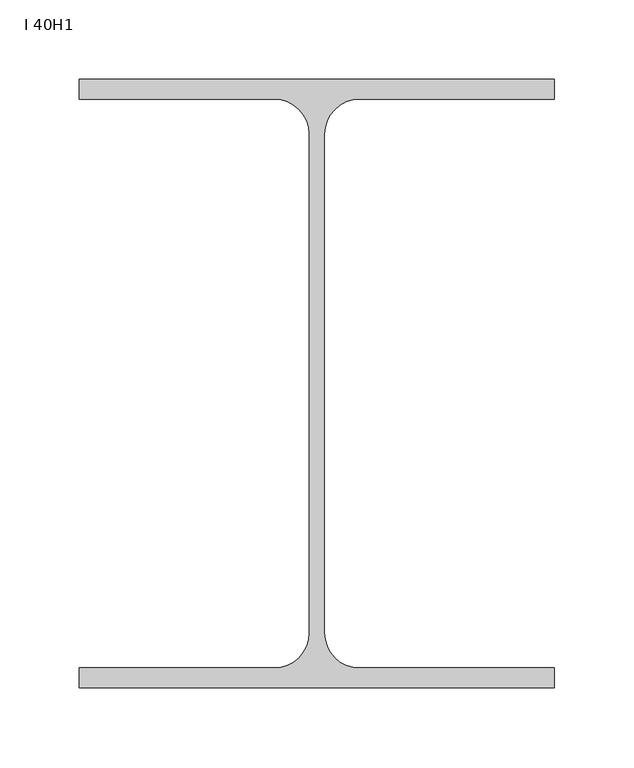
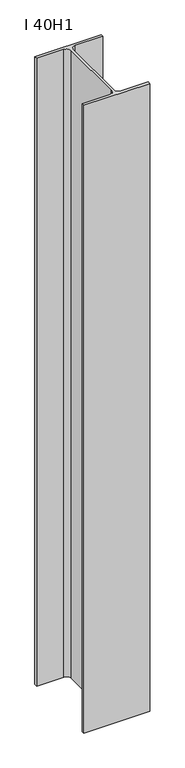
"""IFC4 building model written with IfcOpenShell, lengths in millimetres: column geometry, Двутавровая балка с широкими полками (ASTO20-93)-Колонна : I 40H1."""

from ifc_helpers import new_model, si_unit, point, frame_2d, origin, origin_with_axes, place, context, project, spatial, polyline, circle_curve, trimmed, segment, composite_curve, outline, extrude, source, transform, mapped, element, save


def i_40h1_c1fda57e(model_context):
    return source(origin(), model_context, "Body", "SweptSolid", [
        extrude(outline(composite_curve([segment(polyline([(-149.5, 178.5), (-149.5, 191.0), (149.5, 191.0), (149.5, 178.5), (26.75, 178.5)]), True, "CONTINUOUS"), segment(trimmed(circle_curve(frame_2d((26.75, 156.5)), 22.0), [point((26.75, 178.5))], [point((4.75, 156.5))], True, "CARTESIAN"), True, "CONTINUOUS"), segment(polyline([(4.75, 156.5), (4.75, -157.5)]), True, "CONTINUOUS"), segment(trimmed(circle_curve(frame_2d((26.75, -157.5)), 22.0), [point((4.75, -157.5))], [point((26.75, -179.5))], True, "CARTESIAN"), True, "CONTINUOUS"), segment(polyline([(26.75, -179.5), (149.5, -179.5), (149.5, -192.0), (-149.5, -192.0), (-149.5, -179.5), (-26.75, -179.5)]), True, "CONTINUOUS"), segment(trimmed(circle_curve(frame_2d((-26.75, -157.5)), 22.0), [point((-26.75, -179.5))], [point((-4.75, -157.5))], True, "CARTESIAN"), True, "CONTINUOUS"), segment(polyline([(-4.75, -157.5), (-4.75, 156.5)]), True, "CONTINUOUS"), segment(trimmed(circle_curve(frame_2d((-26.75, 156.5)), 22.0), [point((-4.75, 156.5))], [point((-26.75, 178.5))], True, "CARTESIAN"), True, "CONTINUOUS"), segment(polyline([(-26.75, 178.5), (-149.5, 178.5)]), True, "CONTINUOUS")], self_intersect=False)), origin_with_axes(), (0.0, 0.0, 1.0), 3000.0),
    ])


if __name__ == "__main__":
    model = new_model("IFC4")
    model_context = context("Model", 3, world=origin())
    ifc_project = project(units=[si_unit("LENGTHUNIT", "METRE", prefix="MILLI")], contexts=[model_context])
    site = spatial("IfcSite", under=ifc_project)
    building = spatial("IfcBuilding", under=site)
    placement = place(None, origin())
    i_40h1_shape = i_40h1_c1fda57e(model_context)
    element("IfcColumn", 1, ObjectType="Двутавровая балка с широкими полками (ASTO20-93)-Колонна : I 40H1", at=placement, inside=building, context=model_context, shape_type="MappedRepresentation", body=[
        mapped(i_40h1_shape, transform((0.0, 0.0, 0.0), x_axis=(1.0, 0.0, 0.0), y_axis=(0.0, 1.0, 0.0), z_axis=(0.0, 0.0, 1.0))),
    ])
    save(model, "model.ifc")
